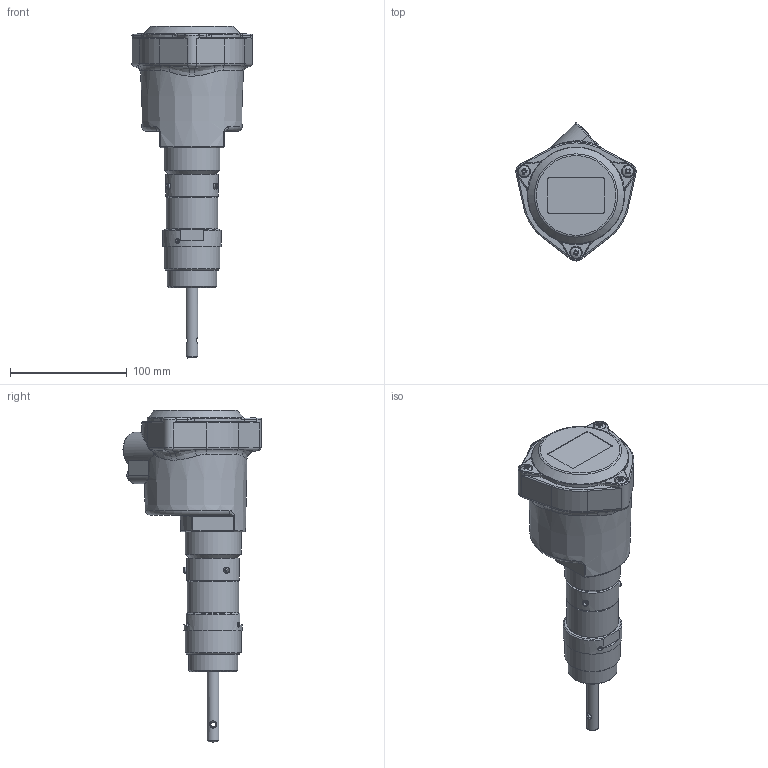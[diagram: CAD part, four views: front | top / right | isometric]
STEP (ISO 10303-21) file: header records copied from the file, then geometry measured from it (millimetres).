
FILE_DESCRIPTION(/* description */ (''),/* implementation_level */ '2;1');
FILE_NAME(/* name */ '\\SRVGEST\camlogic\TEMP\Kulwant S\2_STEP\2_STEP\PFG57\PFG-57 AT.stp',/* time_stamp */ '2021-06-11T10:42:28+02:00',/* author */ ('kulwant.singh'),/* organization */ (''),/* preprocessor_version */ 'ST-DEVELOPER v18.1',/* originating_system */ 'Autodesk Inventor 2022',/* authorisation */ '');
FILE_SCHEMA (('AUTOMOTIVE_DESIGN { 1 0 10303 214 3 1 1 }'));
Length unit declared in the file: millimetre
Products named in the file (1): PFG-57 AT
Bounding box: 102.8 x 118.07 x 284 mm (x, y, z)
Volume: 805840.5 mm3; surface area: 65084.9 mm2
Topology: 1 solids, 1 shells, 549 faces, 1386 edges, 862 vertices
Faces by surface type: plane 220, cylinder 156, cone 69, bspline 55, torus 42, sphere 7
Full cylindrical faces by diameter (mm): 4.134 x3, 5 x3, 6.88 x1, 7.333 x1, 8 x1, 10 x1, 10.8 x3, 18.631 x1, 25 x1, 26.15 x1, 27.2 x1, 42 x1, 44 x1, 45 x1, 47.8 x1, 47.803 x1, 50 x1
Entity records: 19070 total; most frequent: CARTESIAN_POINT 5515, ORIENTED_EDGE 2744, DIRECTION 2700, EDGE_CURVE 1372, AXIS2_PLACEMENT_3D 1065, VERTEX_POINT 862, EDGE_LOOP 588, LINE 570
